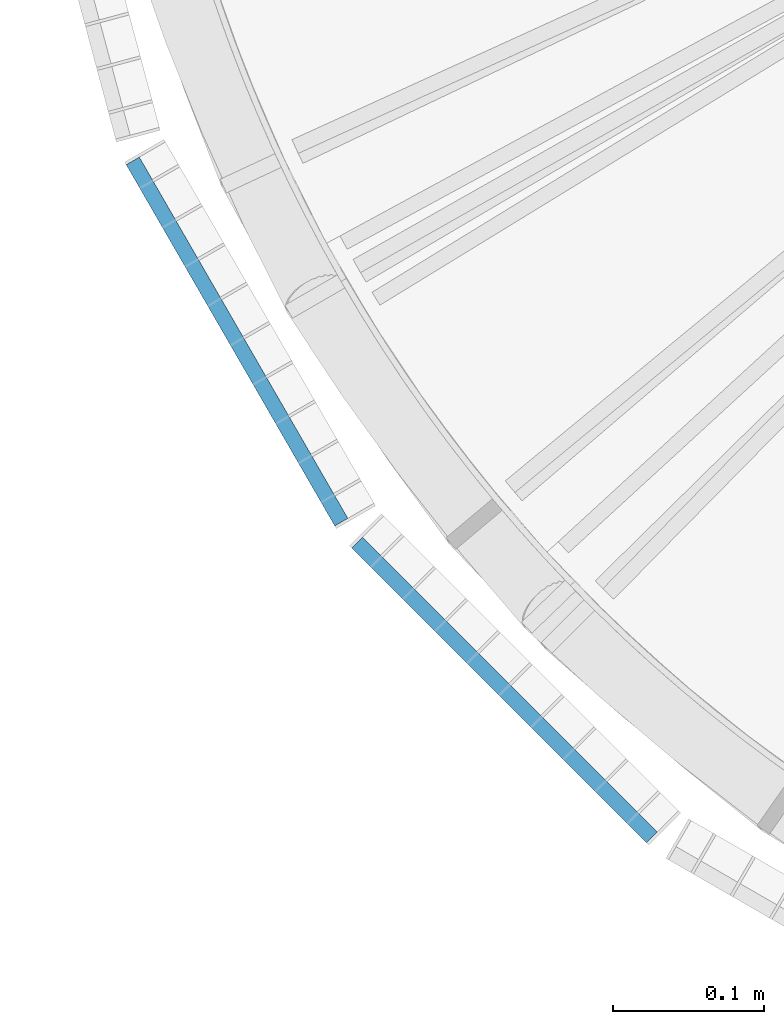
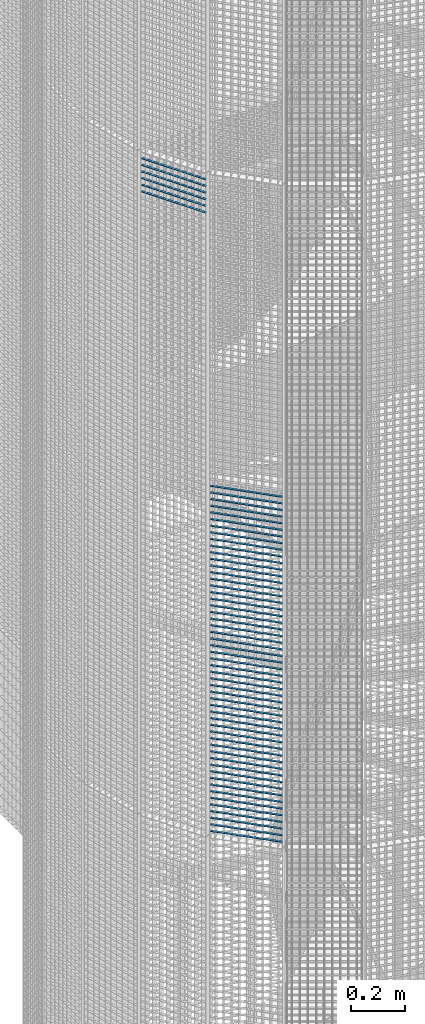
# One storey, part 120 of 1183: 59 beams, 2 elements without a shape of their own.
"""IFC2X3 building model written with IfcOpenShell, lengths in millimetres."""

import ifcopenshell
import ifcopenshell.guid

model = None  # the IFC model being written
_history = None  # IfcOwnerHistory: only IFC2X3 demands one
_inside = {}  # id of a spatial element -> (the spatial element, [elements in it])
_under = {}  # id of a project, library or spatial element -> (it, [spatial elements below it])
_declared = {}  # id of a project -> (the project, [libraries it declares])
_typed = {}  # id of a type object -> (the type object, [elements of that type])
_made_of = {}  # id of a material, layer set ... -> (it, [elements and type objects made of it])


def new_model(schema):
    """Start an empty IFC model of exactly this schema.

    Asked for "IFC4X3", IfcOpenShell would pick the latest addendum, in which some entities
    have other attributes; the version numbers below select the first issue.
    IFC2X3 requires an IfcOwnerHistory on every rooted entity: one is made here for all.
    """
    global model, _history
    if schema == "IFC4X3":
        model = ifcopenshell.file(schema_version=(4, 3, 0, 0))
    else:
        model = ifcopenshell.file(schema=schema)
    _inside.clear()
    _under.clear()
    _declared.clear()
    _typed.clear()
    _made_of.clear()
    _history = None
    if model.schema == "IFC2X3":
        org = make("IfcOrganization", Name="unknown")
        user = make(
            "IfcPersonAndOrganization",
            ThePerson=make("IfcPerson", FamilyName="unknown"),
            TheOrganization=org,
        )
        app = make(
            "IfcApplication",
            ApplicationDeveloper=org,
            Version="unknown",
            ApplicationFullName="unknown",
            ApplicationIdentifier="unknown",
        )
        _history = make(
            "IfcOwnerHistory",
            OwningUser=user,
            OwningApplication=app,
            ChangeAction="ADDED",
            CreationDate=0,
        )
    return model


def make(cls, **values):
    """One entity of the class cls with the attributes given. An attribute that is None is left unset."""
    return model.create_entity(
        cls, **{name: value for name, value in values.items() if value is not None}
    )


def rooted(cls, **values):
    """An entity with a GlobalId (a new one), such as an element, a storey or a relation."""
    return make(cls, GlobalId=ifcopenshell.guid.new(), OwnerHistory=_history, **values)


def si_unit(unit_type, name, prefix=None):
    """IfcSIUnit, for example si_unit("LENGTHUNIT", "METRE", prefix="MILLI")."""
    return make("IfcSIUnit", UnitType=unit_type, Prefix=prefix, Name=name)


def assignment(units):
    """IfcUnitAssignment: the units of a project."""
    return None if units is None else make("IfcUnitAssignment", Units=units)


def point(xyz):
    """IfcCartesianPoint."""
    return None if xyz is None else make("IfcCartesianPoint", Coordinates=xyz)


def direction(xyz):
    """IfcDirection."""
    return None if xyz is None else make("IfcDirection", DirectionRatios=xyz)


def frame(location, z_axis=None, x_axis=None):
    """IfcAxis2Placement3D, a coordinate frame: its origin and axes. An axis left out is left unset."""
    return make(
        "IfcAxis2Placement3D",
        Location=point(location),
        Axis=direction(z_axis),
        RefDirection=direction(x_axis),
    )


def frame_2d(location, x_axis=None):
    """IfcAxis2Placement2D, a coordinate frame in the plane: its origin and x axis."""
    return make(
        "IfcAxis2Placement2D", Location=point(location), RefDirection=direction(x_axis)
    )


def origin_with_axes():
    """The frame at (0, 0, 0) with the z axis (0, 0, 1) and the x axis (1, 0, 0) written out."""
    return frame((0.0, 0.0, 0.0), z_axis=(0.0, 0.0, 1.0), x_axis=(1.0, 0.0, 0.0))


def origin_2d_with_axis():
    """The frame at (0, 0) in the plane with the x axis (1, 0) written out."""
    return frame_2d((0.0, 0.0), x_axis=(1.0, 0.0))


def place(relative_to, where):
    """IfcLocalPlacement: puts the frame where relative to a parent placement (None: the world)."""
    return make(
        "IfcLocalPlacement", PlacementRelTo=relative_to, RelativePlacement=where
    )


def context(
    kind, dimensions, precision=None, world=None, true_north=None, identifier=None
):
    """IfcGeometricRepresentationContext, for example the 3D "Model" context."""
    return make(
        "IfcGeometricRepresentationContext",
        ContextIdentifier=identifier,
        ContextType=kind,
        CoordinateSpaceDimension=dimensions,
        Precision=precision,
        WorldCoordinateSystem=world,
        TrueNorth=true_north,
    )


def subcontext(parent, identifier, kind, view, scale=None):
    """IfcGeometricRepresentationSubContext, for example "Body" below "Model"."""
    return make(
        "IfcGeometricRepresentationSubContext",
        ContextIdentifier=identifier,
        ContextType=kind,
        ParentContext=parent,
        TargetScale=scale,
        TargetView=view,
    )


def project(units=None, contexts=None):
    """IfcProject with its units and contexts."""
    return rooted(
        "IfcProject",
        Name="project",
        RepresentationContexts=contexts,
        UnitsInContext=assignment(units),
    )


def spatial(cls, under=None, at=None, **own):
    """A site, building, storey or space (cls), placed at a placement, below another one or the project."""
    s = rooted(cls, ObjectPlacement=at, **own)
    if under is not None:
        _under.setdefault(under.id(), (under, []))[1].append(s)
    return s


def profile(cls, at=None, kind="AREA", **sizes):
    """A parametric profile (cls). Its sizes go by their IFC names, for example OverallWidth=200.0."""
    return make(cls, ProfileType=kind, Position=at, **sizes)


def rectangle(**sizes):
    """IfcRectangleProfileDef."""
    return profile("IfcRectangleProfileDef", **sizes)


def extrude(swept, where, along, depth):
    """IfcExtrudedAreaSolid: the profile swept, set in the frame where, extruded along a direction by depth."""
    return make(
        "IfcExtrudedAreaSolid",
        SweptArea=swept,
        Position=where,
        ExtrudedDirection=direction(along),
        Depth=depth,
    )


def shape(context_of_items, identifier, shape_type, items):
    """IfcShapeRepresentation: the items that make up one representation, for example the "Body"."""
    return make(
        "IfcShapeRepresentation",
        ContextOfItems=context_of_items,
        RepresentationIdentifier=identifier,
        RepresentationType=shape_type,
        Items=items,
    )


def material(Name=None, Category=None):
    """IfcMaterial."""
    return make("IfcMaterial", Name=Name, Category=Category)


def made_of(thing, what):
    """Note that an element or type object is made of a material, layer set ...; save() writes the relation."""
    if what is not None:
        _made_of.setdefault(what.id(), (what, []))[1].append(thing)
    return thing


def type_object(cls, material=None, **own):
    """A type object (cls), such as IfcWallType, which elements share."""
    return made_of(rooted(cls, **own), material)


def element(
    cls,
    number,
    at=None,
    inside=None,
    cuts=None,
    type_object=None,
    material=None,
    context=None,
    identifier="Body",
    shape_type=None,
    held_by="IfcProductDefinitionShape",
    body=None,
    shapes=None,
    **own,
):
    """One element of the class cls, such as IfcWall. Its Tag is "e" and its number.

    at: its placement. inside: the storey or other place that contains it. cuts: it is an
    opening in that element (IfcRelVoidsElement). A single representation is given by context,
    identifier, shape_type and body (its items); several are given by shapes. held_by: the class
    of the entity that holds the representations. save() writes the other relations.
    """
    e = rooted(cls, Tag="e%d" % number, ObjectPlacement=at, **own)
    if body is not None:
        shapes = [shape(context, identifier, shape_type, body)]
    if shapes is not None:
        e.Representation = make(held_by, Representations=shapes)
    if inside is not None:
        _inside.setdefault(inside.id(), (inside, []))[1].append(e)
    if cuts is not None:
        rooted(
            "IfcRelVoidsElement", RelatingBuildingElement=cuts, RelatedOpeningElement=e
        )
    if type_object is not None:
        _typed.setdefault(type_object.id(), (type_object, []))[1].append(e)
    return made_of(e, material)


def aggregate(whole, parts):
    """IfcRelAggregates: a whole, such as a stair, and the parts it consists of."""
    return rooted("IfcRelAggregates", RelatingObject=whole, RelatedObjects=parts)


def save(model, path):
    """Write the relations noted so far, then the file.

    IfcRelAggregates (storeys below a building ...), IfcRelContainedInSpatialStructure (elements
    in a storey), IfcRelDefinesByType, IfcRelAssociatesMaterial and IfcRelDeclares: one each for
    every whole, place, type object, material and project.
    """
    for whole, parts in _under.values():
        aggregate(whole, parts)
    for where, things in _inside.values():
        rooted(
            "IfcRelContainedInSpatialStructure",
            RelatedElements=things,
            RelatingStructure=where,
        )
    for kind, things in _typed.values():
        rooted("IfcRelDefinesByType", RelatedObjects=things, RelatingType=kind)
    for what, things in _made_of.values():
        rooted("IfcRelAssociatesMaterial", RelatedObjects=things, RelatingMaterial=what)
    for by, libraries in _declared.values():
        rooted("IfcRelDeclares", RelatingContext=by, RelatedDefinitions=libraries)
    model.write(path)


model = new_model("IFC2X3")

# Units and contexts
model_context = context("Model", 3, precision=1e-05, world=origin_with_axes())
body_context = subcontext(model_context, "Body", "Model", "MODEL_VIEW")
ifc_project = project(units=[si_unit("LENGTHUNIT", "METRE", prefix="MILLI"), si_unit("AREAUNIT", "SQUARE_METRE"), si_unit("VOLUMEUNIT", "CUBIC_METRE"), si_unit("MASSUNIT", "GRAM", prefix="KILO"), si_unit("TIMEUNIT", "SECOND"), si_unit("PLANEANGLEUNIT", "RADIAN"), si_unit("SOLIDANGLEUNIT", "STERADIAN"), si_unit("THERMODYNAMICTEMPERATUREUNIT", "DEGREE_CELSIUS"), si_unit("LUMINOUSINTENSITYUNIT", "LUMEN")], contexts=[model_context])

# Site, building, storey
site_placement = place(None, origin_with_axes())
site = spatial("IfcSite", under=ifc_project, at=site_placement, Name="Undefined", CompositionType="ELEMENT")
building_placement = place(site_placement, origin_with_axes())
building = spatial("IfcBuilding", under=site, at=building_placement, Name="Undefined", CompositionType="ELEMENT")
storey_placement = place(building_placement, origin_with_axes())
storey = spatial("IfcBuildingStorey", under=building, at=storey_placement, Name="Undefined", CompositionType="ELEMENT", Elevation=0.0)

# Assembly, beams
assembly_1_placement = place(storey_placement, origin_with_axes())
assembly_1 = element("IfcElementAssembly", 1, at=assembly_1_placement, inside=storey, Name="BORDURE", AssemblyPlace="NOTDEFINED", PredefinedType="NOTDEFINED")
ifc_material = material(Name="STEEL/S235JR")
beam_type = type_object("IfcBeamType", Name="PL2*10", PredefinedType="NOTDEFINED")
beam_1_placement = place(assembly_1_placement, frame((-884.927168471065, -689.771348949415, 7590.0), z_axis=(-0.70710678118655, -0.707106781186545, 0.0), x_axis=(0.707106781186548, -0.707106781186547, 0.0)))
beam_1 = element("IfcBeam", 2, at=beam_1_placement, type_object=beam_type, material=ifc_material, Name="ENTRETOISE", context=body_context, shape_type="SweptSolid", body=[
    extrude(rectangle(XDim=2.0, YDim=10.0, at=origin_2d_with_axis()), frame((275.999999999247, 9.09494701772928e-13, 1.53210777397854e-14), z_axis=(-1.0, 0.0, 0.0), x_axis=(0.0, -1.0, 0.0)), (0.0, 0.0, 1.0), 276.0),
])
beam_2_placement = place(assembly_1_placement, frame((-884.927168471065, -689.771348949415, 7560.0), z_axis=(-0.70710678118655, -0.707106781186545, 0.0), x_axis=(0.707106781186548, -0.707106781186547, 0.0)))
beam_2 = element("IfcBeam", 3, at=beam_2_placement, type_object=beam_type, material=ifc_material, Name="ENTRETOISE", context=body_context, shape_type="SweptSolid", body=[
    extrude(rectangle(XDim=2.0, YDim=10.0, at=origin_2d_with_axis()), frame((275.999999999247, 9.09494701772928e-13, 1.53210777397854e-14), z_axis=(-1.0, 0.0, 0.0), x_axis=(0.0, -1.0, 0.0)), (0.0, 0.0, 1.0), 276.0),
])
beam_3_placement = place(assembly_1_placement, frame((-884.927168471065, -689.771348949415, 7530.0), z_axis=(-0.70710678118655, -0.707106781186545, 0.0), x_axis=(0.707106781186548, -0.707106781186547, 0.0)))
beam_3 = element("IfcBeam", 4, at=beam_3_placement, type_object=beam_type, material=ifc_material, Name="ENTRETOISE", context=body_context, shape_type="SweptSolid", body=[
    extrude(rectangle(XDim=2.0, YDim=10.0, at=origin_2d_with_axis()), frame((275.999999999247, 9.09494701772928e-13, 1.53210777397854e-14), z_axis=(-1.0, 0.0, 0.0), x_axis=(0.0, -1.0, 0.0)), (0.0, 0.0, 1.0), 276.0),
])
beam_4_placement = place(assembly_1_placement, frame((-884.927168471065, -689.771348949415, 7500.0), z_axis=(-0.70710678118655, -0.707106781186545, 0.0), x_axis=(0.707106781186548, -0.707106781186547, 0.0)))
beam_4 = element("IfcBeam", 5, at=beam_4_placement, type_object=beam_type, material=ifc_material, Name="ENTRETOISE", context=body_context, shape_type="SweptSolid", body=[
    extrude(rectangle(XDim=2.0, YDim=10.0, at=origin_2d_with_axis()), frame((275.999999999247, 9.09494701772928e-13, 1.53210777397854e-14), z_axis=(-1.0, 0.0, 0.0), x_axis=(0.0, -1.0, 0.0)), (0.0, 0.0, 1.0), 276.0),
])
beam_5_placement = place(assembly_1_placement, frame((-884.927168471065, -689.771348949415, 7470.0), z_axis=(-0.70710678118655, -0.707106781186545, 0.0), x_axis=(0.707106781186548, -0.707106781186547, 0.0)))
beam_5 = element("IfcBeam", 6, at=beam_5_placement, type_object=beam_type, material=ifc_material, Name="ENTRETOISE", context=body_context, shape_type="SweptSolid", body=[
    extrude(rectangle(XDim=2.0, YDim=10.0, at=origin_2d_with_axis()), frame((275.999999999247, 9.09494701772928e-13, 1.53210777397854e-14), z_axis=(-1.0, 0.0, 0.0), x_axis=(0.0, -1.0, 0.0)), (0.0, 0.0, 1.0), 276.0),
])
beam_6_placement = place(assembly_1_placement, frame((-884.927168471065, -689.771348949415, 7440.0), z_axis=(-0.70710678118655, -0.707106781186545, 0.0), x_axis=(0.707106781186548, -0.707106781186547, 0.0)))
beam_6 = element("IfcBeam", 7, at=beam_6_placement, type_object=beam_type, material=ifc_material, Name="ENTRETOISE", context=body_context, shape_type="SweptSolid", body=[
    extrude(rectangle(XDim=2.0, YDim=10.0, at=origin_2d_with_axis()), frame((275.999999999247, 9.09494701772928e-13, 1.53210777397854e-14), z_axis=(-1.0, 0.0, 0.0), x_axis=(0.0, -1.0, 0.0)), (0.0, 0.0, 1.0), 276.0),
])
beam_7_placement = place(assembly_1_placement, frame((-884.927168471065, -689.771348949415, 7410.0), z_axis=(-0.70710678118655, -0.707106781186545, 0.0), x_axis=(0.707106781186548, -0.707106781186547, 0.0)))
beam_7 = element("IfcBeam", 8, at=beam_7_placement, type_object=beam_type, material=ifc_material, Name="ENTRETOISE", context=body_context, shape_type="SweptSolid", body=[
    extrude(rectangle(XDim=2.0, YDim=10.0, at=origin_2d_with_axis()), frame((275.999999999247, 9.09494701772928e-13, 1.53210777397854e-14), z_axis=(-1.0, 0.0, 0.0), x_axis=(0.0, -1.0, 0.0)), (0.0, 0.0, 1.0), 276.0),
])
beam_8_placement = place(assembly_1_placement, frame((-884.927168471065, -689.771348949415, 7380.0), z_axis=(-0.70710678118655, -0.707106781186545, 0.0), x_axis=(0.707106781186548, -0.707106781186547, 0.0)))
beam_8 = element("IfcBeam", 9, at=beam_8_placement, type_object=beam_type, material=ifc_material, Name="ENTRETOISE", context=body_context, shape_type="SweptSolid", body=[
    extrude(rectangle(XDim=2.0, YDim=10.0, at=origin_2d_with_axis()), frame((275.999999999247, 9.09494701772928e-13, 1.53210777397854e-14), z_axis=(-1.0, 0.0, 0.0), x_axis=(0.0, -1.0, 0.0)), (0.0, 0.0, 1.0), 276.0),
])
beam_9_placement = place(assembly_1_placement, frame((-884.927168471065, -689.771348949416, 7350.0), z_axis=(-0.70710678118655, -0.707106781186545, 0.0), x_axis=(0.707106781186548, -0.707106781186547, 0.0)))
beam_9 = element("IfcBeam", 10, at=beam_9_placement, type_object=beam_type, material=ifc_material, Name="ENTRETOISE", context=body_context, shape_type="SweptSolid", body=[
    extrude(rectangle(XDim=2.0, YDim=10.0, at=origin_2d_with_axis()), frame((275.999999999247, 9.09494701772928e-13, 1.53210777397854e-14), z_axis=(-1.0, 0.0, 0.0), x_axis=(0.0, -1.0, 0.0)), (0.0, 0.0, 1.0), 276.0),
])
beam_10_placement = place(assembly_1_placement, frame((-884.927168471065, -689.771348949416, 7320.0), z_axis=(-0.70710678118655, -0.707106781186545, 0.0), x_axis=(0.707106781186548, -0.707106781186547, 0.0)))
beam_10 = element("IfcBeam", 11, at=beam_10_placement, type_object=beam_type, material=ifc_material, Name="ENTRETOISE", context=body_context, shape_type="SweptSolid", body=[
    extrude(rectangle(XDim=2.0, YDim=10.0, at=origin_2d_with_axis()), frame((275.999999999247, 9.09494701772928e-13, 1.53210777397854e-14), z_axis=(-1.0, 0.0, 0.0), x_axis=(0.0, -1.0, 0.0)), (0.0, 0.0, 1.0), 276.0),
])
beam_11_placement = place(assembly_1_placement, frame((-884.927168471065, -689.771348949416, 7290.0), z_axis=(-0.70710678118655, -0.707106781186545, 0.0), x_axis=(0.707106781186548, -0.707106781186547, 0.0)))
beam_11 = element("IfcBeam", 12, at=beam_11_placement, type_object=beam_type, material=ifc_material, Name="ENTRETOISE", context=body_context, shape_type="SweptSolid", body=[
    extrude(rectangle(XDim=2.0, YDim=10.0, at=origin_2d_with_axis()), frame((275.999999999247, 9.09494701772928e-13, 1.53210777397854e-14), z_axis=(-1.0, 0.0, 0.0), x_axis=(0.0, -1.0, 0.0)), (0.0, 0.0, 1.0), 276.0),
])
beam_12_placement = place(assembly_1_placement, frame((-884.927168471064, -689.771348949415, 7260.0), z_axis=(-0.70710678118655, -0.707106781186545, 0.0), x_axis=(0.707106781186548, -0.707106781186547, 0.0)))
beam_12 = element("IfcBeam", 13, at=beam_12_placement, type_object=beam_type, material=ifc_material, Name="ENTRETOISE", context=body_context, shape_type="SweptSolid", body=[
    extrude(rectangle(XDim=2.0, YDim=10.0, at=origin_2d_with_axis()), frame((275.999999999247, 9.09494701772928e-13, 1.53210777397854e-14), z_axis=(-1.0, 0.0, 0.0), x_axis=(0.0, -1.0, 0.0)), (0.0, 0.0, 1.0), 276.0),
])
beam_13_placement = place(assembly_1_placement, frame((-884.927168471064, -689.771348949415, 7230.0), z_axis=(-0.70710678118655, -0.707106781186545, 0.0), x_axis=(0.707106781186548, -0.707106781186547, 0.0)))
beam_13 = element("IfcBeam", 14, at=beam_13_placement, type_object=beam_type, material=ifc_material, Name="ENTRETOISE", context=body_context, shape_type="SweptSolid", body=[
    extrude(rectangle(XDim=2.0, YDim=10.0, at=origin_2d_with_axis()), frame((275.999999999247, 9.09494701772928e-13, 1.53210777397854e-14), z_axis=(-1.0, 0.0, 0.0), x_axis=(0.0, -1.0, 0.0)), (0.0, 0.0, 1.0), 276.0),
])
beam_14_placement = place(assembly_1_placement, frame((-884.927168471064, -689.771348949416, 7200.0), z_axis=(-0.70710678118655, -0.707106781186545, 0.0), x_axis=(0.707106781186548, -0.707106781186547, 0.0)))
beam_14 = element("IfcBeam", 15, at=beam_14_placement, type_object=beam_type, material=ifc_material, Name="ENTRETOISE", context=body_context, shape_type="SweptSolid", body=[
    extrude(rectangle(XDim=2.0, YDim=10.0, at=origin_2d_with_axis()), frame((275.999999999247, 9.09494701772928e-13, 1.53210777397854e-14), z_axis=(-1.0, 0.0, 0.0), x_axis=(0.0, -1.0, 0.0)), (0.0, 0.0, 1.0), 276.0),
])
beam_15_placement = place(assembly_1_placement, frame((-884.927168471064, -689.771348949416, 7170.0), z_axis=(-0.70710678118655, -0.707106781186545, 0.0), x_axis=(0.707106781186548, -0.707106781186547, 0.0)))
beam_15 = element("IfcBeam", 16, at=beam_15_placement, type_object=beam_type, material=ifc_material, Name="ENTRETOISE", context=body_context, shape_type="SweptSolid", body=[
    extrude(rectangle(XDim=2.0, YDim=10.0, at=origin_2d_with_axis()), frame((275.999999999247, 9.09494701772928e-13, 1.53210777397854e-14), z_axis=(-1.0, 0.0, 0.0), x_axis=(0.0, -1.0, 0.0)), (0.0, 0.0, 1.0), 276.0),
])
beam_16_placement = place(assembly_1_placement, frame((-884.927168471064, -689.771348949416, 7140.0), z_axis=(-0.70710678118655, -0.707106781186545, 0.0), x_axis=(0.707106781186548, -0.707106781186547, 0.0)))
beam_16 = element("IfcBeam", 17, at=beam_16_placement, type_object=beam_type, material=ifc_material, Name="ENTRETOISE", context=body_context, shape_type="SweptSolid", body=[
    extrude(rectangle(XDim=2.0, YDim=10.0, at=origin_2d_with_axis()), frame((275.999999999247, 9.09494701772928e-13, 1.53210777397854e-14), z_axis=(-1.0, 0.0, 0.0), x_axis=(0.0, -1.0, 0.0)), (0.0, 0.0, 1.0), 276.0),
])
beam_17_placement = place(assembly_1_placement, frame((-884.927168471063, -689.771348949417, 6720.0), z_axis=(-0.70710678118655, -0.707106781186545, 0.0), x_axis=(0.707106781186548, -0.707106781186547, 0.0)))
beam_17 = element("IfcBeam", 18, at=beam_17_placement, type_object=beam_type, material=ifc_material, Name="ENTRETOISE", context=body_context, shape_type="SweptSolid", body=[
    extrude(rectangle(XDim=2.0, YDim=10.0, at=origin_2d_with_axis()), frame((275.999999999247, 9.09494701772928e-13, 1.53210777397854e-14), z_axis=(-1.0, 0.0, 0.0), x_axis=(0.0, -1.0, 0.0)), (0.0, 0.0, 1.0), 276.0),
])
beam_18_placement = place(assembly_1_placement, frame((-884.927168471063, -689.771348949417, 6690.0), z_axis=(-0.70710678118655, -0.707106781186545, 0.0), x_axis=(0.707106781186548, -0.707106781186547, 0.0)))
beam_18 = element("IfcBeam", 19, at=beam_18_placement, type_object=beam_type, material=ifc_material, Name="ENTRETOISE", context=body_context, shape_type="SweptSolid", body=[
    extrude(rectangle(XDim=2.0, YDim=10.0, at=origin_2d_with_axis()), frame((275.999999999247, 9.09494701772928e-13, 1.53210777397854e-14), z_axis=(-1.0, 0.0, 0.0), x_axis=(0.0, -1.0, 0.0)), (0.0, 0.0, 1.0), 276.0),
])
beam_19_placement = place(assembly_1_placement, frame((-884.927168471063, -689.771348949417, 6750.0), z_axis=(-0.70710678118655, -0.707106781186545, 0.0), x_axis=(0.707106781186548, -0.707106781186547, 0.0)))
beam_19 = element("IfcBeam", 20, at=beam_19_placement, type_object=beam_type, material=ifc_material, Name="ENTRETOISE", context=body_context, shape_type="SweptSolid", body=[
    extrude(rectangle(XDim=2.0, YDim=10.0, at=origin_2d_with_axis()), frame((275.999999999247, 9.09494701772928e-13, 1.53210777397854e-14), z_axis=(-1.0, 0.0, 0.0), x_axis=(0.0, -1.0, 0.0)), (0.0, 0.0, 1.0), 276.0),
])
beam_20_placement = place(assembly_1_placement, frame((-884.927168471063, -689.771348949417, 6660.0), z_axis=(-0.70710678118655, -0.707106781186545, 0.0), x_axis=(0.707106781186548, -0.707106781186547, 0.0)))
beam_20 = element("IfcBeam", 21, at=beam_20_placement, type_object=beam_type, material=ifc_material, Name="ENTRETOISE", context=body_context, shape_type="SweptSolid", body=[
    extrude(rectangle(XDim=2.0, YDim=10.0, at=origin_2d_with_axis()), frame((275.999999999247, 9.09494701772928e-13, 1.53210777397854e-14), z_axis=(-1.0, 0.0, 0.0), x_axis=(0.0, -1.0, 0.0)), (0.0, 0.0, 1.0), 276.0),
])
beam_21_placement = place(assembly_1_placement, frame((-884.927168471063, -689.771348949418, 6630.0), z_axis=(-0.70710678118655, -0.707106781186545, 0.0), x_axis=(0.707106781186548, -0.707106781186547, 0.0)))
beam_21 = element("IfcBeam", 22, at=beam_21_placement, type_object=beam_type, material=ifc_material, Name="ENTRETOISE", context=body_context, shape_type="SweptSolid", body=[
    extrude(rectangle(XDim=2.0, YDim=10.0, at=origin_2d_with_axis()), frame((275.999999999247, 9.09494701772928e-13, 1.53210777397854e-14), z_axis=(-1.0, 0.0, 0.0), x_axis=(0.0, -1.0, 0.0)), (0.0, 0.0, 1.0), 276.0),
])
beam_22_placement = place(assembly_1_placement, frame((-884.927168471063, -689.771348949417, 6780.0), z_axis=(-0.70710678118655, -0.707106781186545, 0.0), x_axis=(0.707106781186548, -0.707106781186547, 0.0)))
beam_22 = element("IfcBeam", 23, at=beam_22_placement, type_object=beam_type, material=ifc_material, Name="ENTRETOISE", context=body_context, shape_type="SweptSolid", body=[
    extrude(rectangle(XDim=2.0, YDim=10.0, at=origin_2d_with_axis()), frame((275.999999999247, 9.09494701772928e-13, 1.53210777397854e-14), z_axis=(-1.0, 0.0, 0.0), x_axis=(0.0, -1.0, 0.0)), (0.0, 0.0, 1.0), 276.0),
])
beam_23_placement = place(assembly_1_placement, frame((-884.927168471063, -689.771348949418, 6600.0), z_axis=(-0.70710678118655, -0.707106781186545, 0.0), x_axis=(0.707106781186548, -0.707106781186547, 0.0)))
beam_23 = element("IfcBeam", 24, at=beam_23_placement, type_object=beam_type, material=ifc_material, Name="ENTRETOISE", context=body_context, shape_type="SweptSolid", body=[
    extrude(rectangle(XDim=2.0, YDim=10.0, at=origin_2d_with_axis()), frame((275.999999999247, 9.09494701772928e-13, 1.53210777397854e-14), z_axis=(-1.0, 0.0, 0.0), x_axis=(0.0, -1.0, 0.0)), (0.0, 0.0, 1.0), 276.0),
])
beam_24_placement = place(assembly_1_placement, frame((-884.927168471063, -689.771348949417, 6810.0), z_axis=(-0.70710678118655, -0.707106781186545, 0.0), x_axis=(0.707106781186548, -0.707106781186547, 0.0)))
beam_24 = element("IfcBeam", 25, at=beam_24_placement, type_object=beam_type, material=ifc_material, Name="ENTRETOISE", context=body_context, shape_type="SweptSolid", body=[
    extrude(rectangle(XDim=2.0, YDim=10.0, at=origin_2d_with_axis()), frame((275.999999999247, 9.09494701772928e-13, 1.53210777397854e-14), z_axis=(-1.0, 0.0, 0.0), x_axis=(0.0, -1.0, 0.0)), (0.0, 0.0, 1.0), 276.0),
])
beam_25_placement = place(assembly_1_placement, frame((-884.927168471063, -689.771348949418, 6570.0), z_axis=(-0.70710678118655, -0.707106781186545, 0.0), x_axis=(0.707106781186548, -0.707106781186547, 0.0)))
beam_25 = element("IfcBeam", 26, at=beam_25_placement, type_object=beam_type, material=ifc_material, Name="ENTRETOISE", context=body_context, shape_type="SweptSolid", body=[
    extrude(rectangle(XDim=2.0, YDim=10.0, at=origin_2d_with_axis()), frame((275.999999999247, 9.09494701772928e-13, 1.53210777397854e-14), z_axis=(-1.0, 0.0, 0.0), x_axis=(0.0, -1.0, 0.0)), (0.0, 0.0, 1.0), 276.0),
])
beam_26_placement = place(assembly_1_placement, frame((-884.927168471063, -689.771348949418, 6540.0), z_axis=(-0.70710678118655, -0.707106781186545, 0.0), x_axis=(0.707106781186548, -0.707106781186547, 0.0)))
beam_26 = element("IfcBeam", 27, at=beam_26_placement, type_object=beam_type, material=ifc_material, Name="ENTRETOISE", context=body_context, shape_type="SweptSolid", body=[
    extrude(rectangle(XDim=2.0, YDim=10.0, at=origin_2d_with_axis()), frame((275.999999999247, 9.09494701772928e-13, 1.53210777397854e-14), z_axis=(-1.0, 0.0, 0.0), x_axis=(0.0, -1.0, 0.0)), (0.0, 0.0, 1.0), 276.0),
])
beam_27_placement = place(assembly_1_placement, frame((-884.927168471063, -689.771348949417, 6840.0), z_axis=(-0.70710678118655, -0.707106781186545, 0.0), x_axis=(0.707106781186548, -0.707106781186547, 0.0)))
beam_27 = element("IfcBeam", 28, at=beam_27_placement, type_object=beam_type, material=ifc_material, Name="ENTRETOISE", context=body_context, shape_type="SweptSolid", body=[
    extrude(rectangle(XDim=2.0, YDim=10.0, at=origin_2d_with_axis()), frame((275.999999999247, 9.09494701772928e-13, 1.53210777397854e-14), z_axis=(-1.0, 0.0, 0.0), x_axis=(0.0, -1.0, 0.0)), (0.0, 0.0, 1.0), 276.0),
])
beam_28_placement = place(assembly_1_placement, frame((-884.927168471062, -689.771348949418, 6510.0), z_axis=(-0.70710678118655, -0.707106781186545, 0.0), x_axis=(0.707106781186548, -0.707106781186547, 0.0)))
beam_28 = element("IfcBeam", 29, at=beam_28_placement, type_object=beam_type, material=ifc_material, Name="ENTRETOISE", context=body_context, shape_type="SweptSolid", body=[
    extrude(rectangle(XDim=2.0, YDim=10.0, at=origin_2d_with_axis()), frame((275.999999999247, 9.09494701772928e-13, 1.53210777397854e-14), z_axis=(-1.0, 0.0, 0.0), x_axis=(0.0, -1.0, 0.0)), (0.0, 0.0, 1.0), 276.0),
])
beam_29_placement = place(assembly_1_placement, frame((-884.927168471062, -689.771348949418, 6480.0), z_axis=(-0.70710678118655, -0.707106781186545, 0.0), x_axis=(0.707106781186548, -0.707106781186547, 0.0)))
beam_29 = element("IfcBeam", 30, at=beam_29_placement, type_object=beam_type, material=ifc_material, Name="ENTRETOISE", context=body_context, shape_type="SweptSolid", body=[
    extrude(rectangle(XDim=2.0, YDim=10.0, at=origin_2d_with_axis()), frame((275.999999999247, 9.09494701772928e-13, 1.53210777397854e-14), z_axis=(-1.0, 0.0, 0.0), x_axis=(0.0, -1.0, 0.0)), (0.0, 0.0, 1.0), 276.0),
])
beam_30_placement = place(assembly_1_placement, frame((-884.927168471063, -689.771348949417, 6870.0), z_axis=(-0.70710678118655, -0.707106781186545, 0.0), x_axis=(0.707106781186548, -0.707106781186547, 0.0)))
beam_30 = element("IfcBeam", 31, at=beam_30_placement, type_object=beam_type, material=ifc_material, Name="ENTRETOISE", context=body_context, shape_type="SweptSolid", body=[
    extrude(rectangle(XDim=2.0, YDim=10.0, at=origin_2d_with_axis()), frame((275.999999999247, 9.09494701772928e-13, 1.53210777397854e-14), z_axis=(-1.0, 0.0, 0.0), x_axis=(0.0, -1.0, 0.0)), (0.0, 0.0, 1.0), 276.0),
])
beam_31_placement = place(assembly_1_placement, frame((-884.927168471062, -689.771348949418, 6450.0), z_axis=(-0.70710678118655, -0.707106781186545, 0.0), x_axis=(0.707106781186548, -0.707106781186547, 0.0)))
beam_31 = element("IfcBeam", 32, at=beam_31_placement, type_object=beam_type, material=ifc_material, Name="ENTRETOISE", context=body_context, shape_type="SweptSolid", body=[
    extrude(rectangle(XDim=2.0, YDim=10.0, at=origin_2d_with_axis()), frame((275.999999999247, 9.09494701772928e-13, 1.53210777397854e-14), z_axis=(-1.0, 0.0, 0.0), x_axis=(0.0, -1.0, 0.0)), (0.0, 0.0, 1.0), 276.0),
])
beam_32_placement = place(assembly_1_placement, frame((-884.927168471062, -689.771348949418, 6420.0), z_axis=(-0.70710678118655, -0.707106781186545, 0.0), x_axis=(0.707106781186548, -0.707106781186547, 0.0)))
beam_32 = element("IfcBeam", 33, at=beam_32_placement, type_object=beam_type, material=ifc_material, Name="ENTRETOISE", context=body_context, shape_type="SweptSolid", body=[
    extrude(rectangle(XDim=2.0, YDim=10.0, at=origin_2d_with_axis()), frame((275.999999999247, 9.09494701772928e-13, 1.53210777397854e-14), z_axis=(-1.0, 0.0, 0.0), x_axis=(0.0, -1.0, 0.0)), (0.0, 0.0, 1.0), 276.0),
])
beam_33_placement = place(assembly_1_placement, frame((-884.927168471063, -689.771348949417, 6900.0), z_axis=(-0.70710678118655, -0.707106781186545, 0.0), x_axis=(0.707106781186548, -0.707106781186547, 0.0)))
beam_33 = element("IfcBeam", 34, at=beam_33_placement, type_object=beam_type, material=ifc_material, Name="ENTRETOISE", context=body_context, shape_type="SweptSolid", body=[
    extrude(rectangle(XDim=2.0, YDim=10.0, at=origin_2d_with_axis()), frame((275.999999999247, 9.09494701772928e-13, 1.53210777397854e-14), z_axis=(-1.0, 0.0, 0.0), x_axis=(0.0, -1.0, 0.0)), (0.0, 0.0, 1.0), 276.0),
])
beam_34_placement = place(assembly_1_placement, frame((-884.927168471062, -689.771348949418, 6390.0), z_axis=(-0.70710678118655, -0.707106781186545, 0.0), x_axis=(0.707106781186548, -0.707106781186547, 0.0)))
beam_34 = element("IfcBeam", 35, at=beam_34_placement, type_object=beam_type, material=ifc_material, Name="ENTRETOISE", context=body_context, shape_type="SweptSolid", body=[
    extrude(rectangle(XDim=2.0, YDim=10.0, at=origin_2d_with_axis()), frame((275.999999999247, 9.09494701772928e-13, 1.53210777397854e-14), z_axis=(-1.0, 0.0, 0.0), x_axis=(0.0, -1.0, 0.0)), (0.0, 0.0, 1.0), 276.0),
])
beam_35_placement = place(assembly_1_placement, frame((-884.927168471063, -689.771348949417, 6930.0), z_axis=(-0.70710678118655, -0.707106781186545, 0.0), x_axis=(0.707106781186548, -0.707106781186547, 0.0)))
beam_35 = element("IfcBeam", 36, at=beam_35_placement, type_object=beam_type, material=ifc_material, Name="ENTRETOISE", context=body_context, shape_type="SweptSolid", body=[
    extrude(rectangle(XDim=2.0, YDim=10.0, at=origin_2d_with_axis()), frame((275.999999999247, 9.09494701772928e-13, 1.53210777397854e-14), z_axis=(-1.0, 0.0, 0.0), x_axis=(0.0, -1.0, 0.0)), (0.0, 0.0, 1.0), 276.0),
])
beam_36_placement = place(assembly_1_placement, frame((-884.927168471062, -689.771348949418, 6360.0), z_axis=(-0.70710678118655, -0.707106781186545, 0.0), x_axis=(0.707106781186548, -0.707106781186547, 0.0)))
beam_36 = element("IfcBeam", 37, at=beam_36_placement, type_object=beam_type, material=ifc_material, Name="ENTRETOISE", context=body_context, shape_type="SweptSolid", body=[
    extrude(rectangle(XDim=2.0, YDim=10.0, at=origin_2d_with_axis()), frame((275.999999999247, 9.09494701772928e-13, 1.53210777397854e-14), z_axis=(-1.0, 0.0, 0.0), x_axis=(0.0, -1.0, 0.0)), (0.0, 0.0, 1.0), 276.0),
])
beam_37_placement = place(assembly_1_placement, frame((-884.927168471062, -689.771348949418, 6330.0), z_axis=(-0.70710678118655, -0.707106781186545, 0.0), x_axis=(0.707106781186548, -0.707106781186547, 0.0)))
beam_37 = element("IfcBeam", 38, at=beam_37_placement, type_object=beam_type, material=ifc_material, Name="ENTRETOISE", context=body_context, shape_type="SweptSolid", body=[
    extrude(rectangle(XDim=2.0, YDim=10.0, at=origin_2d_with_axis()), frame((275.999999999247, 9.09494701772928e-13, 1.53210777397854e-14), z_axis=(-1.0, 0.0, 0.0), x_axis=(0.0, -1.0, 0.0)), (0.0, 0.0, 1.0), 276.0),
])
beam_38_placement = place(assembly_1_placement, frame((-884.927168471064, -689.771348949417, 6960.0), z_axis=(-0.70710678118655, -0.707106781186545, 0.0), x_axis=(0.707106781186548, -0.707106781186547, 0.0)))
beam_38 = element("IfcBeam", 39, at=beam_38_placement, type_object=beam_type, material=ifc_material, Name="ENTRETOISE", context=body_context, shape_type="SweptSolid", body=[
    extrude(rectangle(XDim=2.0, YDim=10.0, at=origin_2d_with_axis()), frame((275.999999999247, 9.09494701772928e-13, 1.53210777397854e-14), z_axis=(-1.0, 0.0, 0.0), x_axis=(0.0, -1.0, 0.0)), (0.0, 0.0, 1.0), 276.0),
])
beam_39_placement = place(assembly_1_placement, frame((-884.927168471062, -689.771348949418, 6300.0), z_axis=(-0.70710678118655, -0.707106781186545, 0.0), x_axis=(0.707106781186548, -0.707106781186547, 0.0)))
beam_39 = element("IfcBeam", 40, at=beam_39_placement, type_object=beam_type, material=ifc_material, Name="ENTRETOISE", context=body_context, shape_type="SweptSolid", body=[
    extrude(rectangle(XDim=2.0, YDim=10.0, at=origin_2d_with_axis()), frame((275.999999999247, 9.09494701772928e-13, 1.53210777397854e-14), z_axis=(-1.0, 0.0, 0.0), x_axis=(0.0, -1.0, 0.0)), (0.0, 0.0, 1.0), 276.0),
])
beam_40_placement = place(assembly_1_placement, frame((-884.927168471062, -689.771348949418, 6270.0), z_axis=(-0.70710678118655, -0.707106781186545, 0.0), x_axis=(0.707106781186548, -0.707106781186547, 0.0)))
beam_40 = element("IfcBeam", 41, at=beam_40_placement, type_object=beam_type, material=ifc_material, Name="ENTRETOISE", context=body_context, shape_type="SweptSolid", body=[
    extrude(rectangle(XDim=2.0, YDim=10.0, at=origin_2d_with_axis()), frame((275.999999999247, 9.09494701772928e-13, 1.53210777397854e-14), z_axis=(-1.0, 0.0, 0.0), x_axis=(0.0, -1.0, 0.0)), (0.0, 0.0, 1.0), 276.0),
])
beam_41_placement = place(assembly_1_placement, frame((-884.927168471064, -689.771348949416, 6990.0), z_axis=(-0.70710678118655, -0.707106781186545, 0.0), x_axis=(0.707106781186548, -0.707106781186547, 0.0)))
beam_41 = element("IfcBeam", 42, at=beam_41_placement, type_object=beam_type, material=ifc_material, Name="ENTRETOISE", context=body_context, shape_type="SweptSolid", body=[
    extrude(rectangle(XDim=2.0, YDim=10.0, at=origin_2d_with_axis()), frame((275.999999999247, 9.09494701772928e-13, 1.53210777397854e-14), z_axis=(-1.0, 0.0, 0.0), x_axis=(0.0, -1.0, 0.0)), (0.0, 0.0, 1.0), 276.0),
])
beam_42_placement = place(assembly_1_placement, frame((-884.927168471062, -689.771348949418, 6240.0), z_axis=(-0.70710678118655, -0.707106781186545, 0.0), x_axis=(0.707106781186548, -0.707106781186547, 0.0)))
beam_42 = element("IfcBeam", 43, at=beam_42_placement, type_object=beam_type, material=ifc_material, Name="ENTRETOISE", context=body_context, shape_type="SweptSolid", body=[
    extrude(rectangle(XDim=2.0, YDim=10.0, at=origin_2d_with_axis()), frame((275.999999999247, 9.09494701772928e-13, 1.53210777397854e-14), z_axis=(-1.0, 0.0, 0.0), x_axis=(0.0, -1.0, 0.0)), (0.0, 0.0, 1.0), 276.0),
])
beam_43_placement = place(assembly_1_placement, frame((-884.927168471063, -689.771348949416, 7020.0), z_axis=(-0.70710678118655, -0.707106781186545, 0.0), x_axis=(0.707106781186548, -0.707106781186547, 0.0)))
beam_43 = element("IfcBeam", 44, at=beam_43_placement, type_object=beam_type, material=ifc_material, Name="ENTRETOISE", context=body_context, shape_type="SweptSolid", body=[
    extrude(rectangle(XDim=2.0, YDim=10.0, at=origin_2d_with_axis()), frame((275.999999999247, 9.09494701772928e-13, 1.53210777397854e-14), z_axis=(-1.0, 0.0, 0.0), x_axis=(0.0, -1.0, 0.0)), (0.0, 0.0, 1.0), 276.0),
])
beam_44_placement = place(assembly_1_placement, frame((-884.927168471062, -689.771348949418, 6210.0), z_axis=(-0.70710678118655, -0.707106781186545, 0.0), x_axis=(0.707106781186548, -0.707106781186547, 0.0)))
beam_44 = element("IfcBeam", 45, at=beam_44_placement, type_object=beam_type, material=ifc_material, Name="ENTRETOISE", context=body_context, shape_type="SweptSolid", body=[
    extrude(rectangle(XDim=2.0, YDim=10.0, at=origin_2d_with_axis()), frame((275.999999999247, 9.09494701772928e-13, 1.53210777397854e-14), z_axis=(-1.0, 0.0, 0.0), x_axis=(0.0, -1.0, 0.0)), (0.0, 0.0, 1.0), 276.0),
])
beam_45_placement = place(assembly_1_placement, frame((-884.927168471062, -689.771348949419, 6180.0), z_axis=(-0.70710678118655, -0.707106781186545, 0.0), x_axis=(0.707106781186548, -0.707106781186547, 0.0)))
beam_45 = element("IfcBeam", 46, at=beam_45_placement, type_object=beam_type, material=ifc_material, Name="ENTRETOISE", context=body_context, shape_type="SweptSolid", body=[
    extrude(rectangle(XDim=2.0, YDim=10.0, at=origin_2d_with_axis()), frame((275.999999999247, 9.09494701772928e-13, 1.53210777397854e-14), z_axis=(-1.0, 0.0, 0.0), x_axis=(0.0, -1.0, 0.0)), (0.0, 0.0, 1.0), 276.0),
])
beam_46_placement = place(assembly_1_placement, frame((-884.927168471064, -689.771348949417, 7050.0), z_axis=(-0.70710678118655, -0.707106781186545, 0.0), x_axis=(0.707106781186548, -0.707106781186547, 0.0)))
beam_46 = element("IfcBeam", 47, at=beam_46_placement, type_object=beam_type, material=ifc_material, Name="ENTRETOISE", context=body_context, shape_type="SweptSolid", body=[
    extrude(rectangle(XDim=2.0, YDim=10.0, at=origin_2d_with_axis()), frame((275.999999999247, 9.09494701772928e-13, 1.53210777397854e-14), z_axis=(-1.0, 0.0, 0.0), x_axis=(0.0, -1.0, 0.0)), (0.0, 0.0, 1.0), 276.0),
])
beam_47_placement = place(assembly_1_placement, frame((-884.927168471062, -689.771348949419, 6150.0), z_axis=(-0.70710678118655, -0.707106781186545, 0.0), x_axis=(0.707106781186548, -0.707106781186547, 0.0)))
beam_47 = element("IfcBeam", 48, at=beam_47_placement, type_object=beam_type, material=ifc_material, Name="ENTRETOISE", context=body_context, shape_type="SweptSolid", body=[
    extrude(rectangle(XDim=2.0, YDim=10.0, at=origin_2d_with_axis()), frame((275.999999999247, 9.09494701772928e-13, 1.53210777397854e-14), z_axis=(-1.0, 0.0, 0.0), x_axis=(0.0, -1.0, 0.0)), (0.0, 0.0, 1.0), 276.0),
])
beam_48_placement = place(assembly_1_placement, frame((-884.927168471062, -689.771348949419, 6120.0), z_axis=(-0.70710678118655, -0.707106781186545, 0.0), x_axis=(0.707106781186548, -0.707106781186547, 0.0)))
beam_48 = element("IfcBeam", 49, at=beam_48_placement, type_object=beam_type, material=ifc_material, Name="ENTRETOISE", context=body_context, shape_type="SweptSolid", body=[
    extrude(rectangle(XDim=2.0, YDim=10.0, at=origin_2d_with_axis()), frame((275.999999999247, 9.09494701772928e-13, 1.53210777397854e-14), z_axis=(-1.0, 0.0, 0.0), x_axis=(0.0, -1.0, 0.0)), (0.0, 0.0, 1.0), 276.0),
])
beam_49_placement = place(assembly_1_placement, frame((-884.927168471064, -689.771348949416, 7080.0), z_axis=(-0.70710678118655, -0.707106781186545, 0.0), x_axis=(0.707106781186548, -0.707106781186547, 0.0)))
beam_49 = element("IfcBeam", 50, at=beam_49_placement, type_object=beam_type, material=ifc_material, Name="ENTRETOISE", context=body_context, shape_type="SweptSolid", body=[
    extrude(rectangle(XDim=2.0, YDim=10.0, at=origin_2d_with_axis()), frame((275.999999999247, 9.09494701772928e-13, 1.53210777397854e-14), z_axis=(-1.0, 0.0, 0.0), x_axis=(0.0, -1.0, 0.0)), (0.0, 0.0, 1.0), 276.0),
])
beam_50_placement = place(assembly_1_placement, frame((-884.927168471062, -689.771348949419, 6090.0), z_axis=(-0.70710678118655, -0.707106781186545, 0.0), x_axis=(0.707106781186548, -0.707106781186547, 0.0)))
beam_50 = element("IfcBeam", 51, at=beam_50_placement, type_object=beam_type, material=ifc_material, Name="ENTRETOISE", context=body_context, shape_type="SweptSolid", body=[
    extrude(rectangle(XDim=2.0, YDim=10.0, at=origin_2d_with_axis()), frame((275.999999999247, 9.09494701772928e-13, 1.53210777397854e-14), z_axis=(-1.0, 0.0, 0.0), x_axis=(0.0, -1.0, 0.0)), (0.0, 0.0, 1.0), 276.0),
])
beam_51_placement = place(assembly_1_placement, frame((-884.927168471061, -689.771348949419, 6060.0), z_axis=(-0.70710678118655, -0.707106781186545, 0.0), x_axis=(0.707106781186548, -0.707106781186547, 0.0)))
beam_51 = element("IfcBeam", 52, at=beam_51_placement, type_object=beam_type, material=ifc_material, Name="ENTRETOISE", context=body_context, shape_type="SweptSolid", body=[
    extrude(rectangle(XDim=2.0, YDim=10.0, at=origin_2d_with_axis()), frame((275.999999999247, 9.09494701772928e-13, 1.53210777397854e-14), z_axis=(-1.0, 0.0, 0.0), x_axis=(0.0, -1.0, 0.0)), (0.0, 0.0, 1.0), 276.0),
])
beam_52_placement = place(assembly_1_placement, frame((-884.927168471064, -689.771348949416, 7110.0), z_axis=(-0.70710678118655, -0.707106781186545, 0.0), x_axis=(0.707106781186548, -0.707106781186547, 0.0)))
beam_52 = element("IfcBeam", 53, at=beam_52_placement, type_object=beam_type, material=ifc_material, Name="ENTRETOISE", context=body_context, shape_type="SweptSolid", body=[
    extrude(rectangle(XDim=2.0, YDim=10.0, at=origin_2d_with_axis()), frame((275.999999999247, 9.09494701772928e-13, 1.53210777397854e-14), z_axis=(-1.0, 0.0, 0.0), x_axis=(0.0, -1.0, 0.0)), (0.0, 0.0, 1.0), 276.0),
])
beam_53_placement = place(assembly_1_placement, frame((-884.92716847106, -689.771348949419, 6030.0), z_axis=(-0.70710678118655, -0.707106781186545, 0.0), x_axis=(0.707106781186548, -0.707106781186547, 0.0)))
beam_53 = element("IfcBeam", 54, at=beam_53_placement, type_object=beam_type, material=ifc_material, Name="ENTRETOISE", context=body_context, shape_type="SweptSolid", body=[
    extrude(rectangle(XDim=2.0, YDim=10.0, at=origin_2d_with_axis()), frame((275.999999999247, 9.09494701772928e-13, 1.53210777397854e-14), z_axis=(-1.0, 0.0, 0.0), x_axis=(0.0, -1.0, 0.0)), (0.0, 0.0, 1.0), 276.0),
])
aggregate(assembly_1, [beam_1, beam_2, beam_3, beam_4, beam_5, beam_6, beam_7, beam_8, beam_9, beam_10, beam_11, beam_12, beam_13, beam_14, beam_15, beam_16, beam_17, beam_18, beam_19, beam_20, beam_21, beam_22, beam_23, beam_24, beam_25, beam_26, beam_27, beam_28, beam_29, beam_30, beam_31, beam_32, beam_33, beam_34, beam_35, beam_36, beam_37, beam_38, beam_39, beam_40, beam_41, beam_42, beam_43, beam_44, beam_45, beam_46, beam_47, beam_48, beam_49, beam_50, beam_51, beam_52, beam_53])

assembly_2_placement = place(storey_placement, origin_with_axes())
assembly_2 = element("IfcElementAssembly", 55, at=assembly_2_placement, inside=storey, Name="BORDURE", AssemblyPlace="NOTDEFINED", PredefinedType="NOTDEFINED")
beam_54_placement = place(assembly_2_placement, frame((-1033.29996828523, -437.231955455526, 8970.0), z_axis=(-0.866025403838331, -0.499999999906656, 0.0), x_axis=(0.499999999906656, -0.866025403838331, 0.0)))
beam_54 = element("IfcBeam", 56, at=beam_54_placement, type_object=beam_type, material=ifc_material, Name="ENTRETOISE", context=body_context, shape_type="SweptSolid", body=[
    extrude(rectangle(XDim=2.0, YDim=10.0, at=origin_2d_with_axis()), frame((275.999999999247, 9.09494701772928e-13, 1.53210777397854e-14), z_axis=(-1.0, 0.0, 0.0), x_axis=(0.0, -1.0, 0.0)), (0.0, 0.0, 1.0), 276.0),
])
beam_55_placement = place(assembly_2_placement, frame((-1033.29996828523, -437.231955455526, 8940.0), z_axis=(-0.866025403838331, -0.499999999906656, 0.0), x_axis=(0.499999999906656, -0.866025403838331, 0.0)))
beam_55 = element("IfcBeam", 57, at=beam_55_placement, type_object=beam_type, material=ifc_material, Name="ENTRETOISE", context=body_context, shape_type="SweptSolid", body=[
    extrude(rectangle(XDim=2.0, YDim=10.0, at=origin_2d_with_axis()), frame((275.999999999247, 9.09494701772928e-13, 1.53210777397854e-14), z_axis=(-1.0, 0.0, 0.0), x_axis=(0.0, -1.0, 0.0)), (0.0, 0.0, 1.0), 276.0),
])
beam_56_placement = place(assembly_2_placement, frame((-1033.29996828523, -437.231955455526, 8910.0), z_axis=(-0.866025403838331, -0.499999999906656, 0.0), x_axis=(0.499999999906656, -0.866025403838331, 0.0)))
beam_56 = element("IfcBeam", 58, at=beam_56_placement, type_object=beam_type, material=ifc_material, Name="ENTRETOISE", context=body_context, shape_type="SweptSolid", body=[
    extrude(rectangle(XDim=2.0, YDim=10.0, at=origin_2d_with_axis()), frame((275.999999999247, 9.09494701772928e-13, 1.53210777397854e-14), z_axis=(-1.0, 0.0, 0.0), x_axis=(0.0, -1.0, 0.0)), (0.0, 0.0, 1.0), 276.0),
])
beam_57_placement = place(assembly_2_placement, frame((-1033.29996828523, -437.231955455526, 8880.0), z_axis=(-0.866025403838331, -0.499999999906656, 0.0), x_axis=(0.499999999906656, -0.866025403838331, 0.0)))
beam_57 = element("IfcBeam", 59, at=beam_57_placement, type_object=beam_type, material=ifc_material, Name="ENTRETOISE", context=body_context, shape_type="SweptSolid", body=[
    extrude(rectangle(XDim=2.0, YDim=10.0, at=origin_2d_with_axis()), frame((275.999999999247, 9.09494701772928e-13, 1.53210777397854e-14), z_axis=(-1.0, 0.0, 0.0), x_axis=(0.0, -1.0, 0.0)), (0.0, 0.0, 1.0), 276.0),
])
beam_58_placement = place(assembly_2_placement, frame((-1033.29996828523, -437.231955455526, 8850.0), z_axis=(-0.866025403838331, -0.499999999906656, 0.0), x_axis=(0.499999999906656, -0.866025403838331, 0.0)))
beam_58 = element("IfcBeam", 60, at=beam_58_placement, type_object=beam_type, material=ifc_material, Name="ENTRETOISE", context=body_context, shape_type="SweptSolid", body=[
    extrude(rectangle(XDim=2.0, YDim=10.0, at=origin_2d_with_axis()), frame((275.999999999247, 9.09494701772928e-13, 1.53210777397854e-14), z_axis=(-1.0, 0.0, 0.0), x_axis=(0.0, -1.0, 0.0)), (0.0, 0.0, 1.0), 276.0),
])
beam_59_placement = place(assembly_2_placement, frame((-1033.29996828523, -437.231955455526, 8820.0), z_axis=(-0.866025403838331, -0.499999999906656, 0.0), x_axis=(0.499999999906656, -0.866025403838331, 0.0)))
beam_59 = element("IfcBeam", 61, at=beam_59_placement, type_object=beam_type, material=ifc_material, Name="ENTRETOISE", context=body_context, shape_type="SweptSolid", body=[
    extrude(rectangle(XDim=2.0, YDim=10.0, at=origin_2d_with_axis()), frame((275.999999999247, 9.09494701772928e-13, 1.53210777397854e-14), z_axis=(-1.0, 0.0, 0.0), x_axis=(0.0, -1.0, 0.0)), (0.0, 0.0, 1.0), 276.0),
])
aggregate(assembly_2, [beam_54, beam_55, beam_56, beam_57, beam_58, beam_59])

save(model, "model.ifc")
